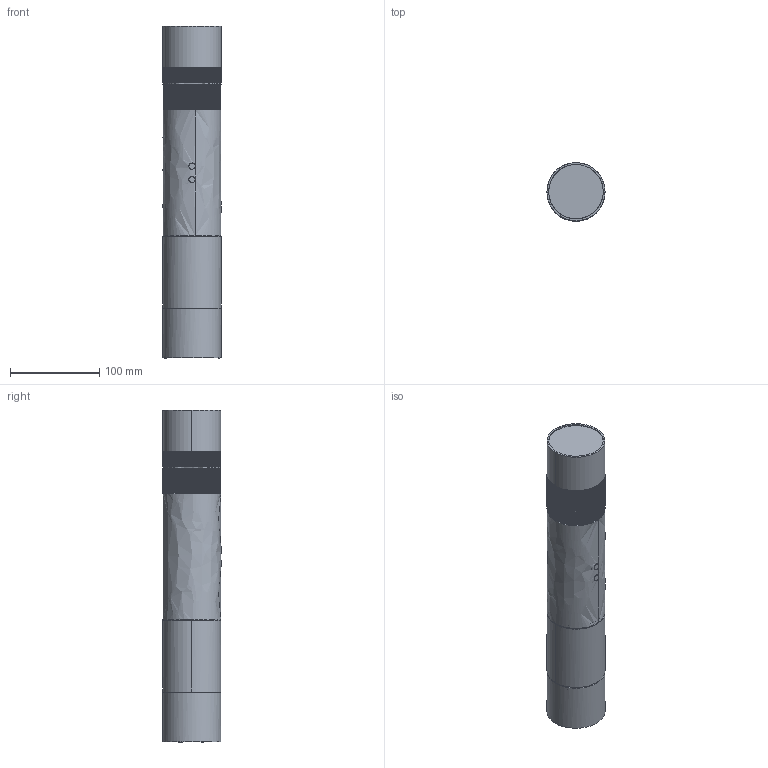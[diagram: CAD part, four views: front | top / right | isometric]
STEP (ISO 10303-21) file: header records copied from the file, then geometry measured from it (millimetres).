
FILE_DESCRIPTION(/* description */ (''),/* implementation_level */ '2;1');
FILE_NAME(/* name */ 'objective',/* time_stamp */ '2013-12-12T10:49:29+01:00',/* author */ (''),/* organization */ (''),/* preprocessor_version */ 'ST-DEVELOPER v10',/* originating_system */ '',/* authorisation */ '');
FILE_SCHEMA (('AUTOMOTIVE_DESIGN'));
Length unit declared in the file: millimetre
Products named in the file (1): 1
Bounding box: 65 x 65.3 x 372 mm (x, y, z)
Volume: 328406.2 mm3; surface area: 195770 mm2
Topology: 10 solids, 14 shells, 1753 faces, 5135 edges, 3416 vertices
Faces by surface type: bspline 982, plane 771
Entity records: 59839 total; most frequent: CARTESIAN_POINT 30072, ORIENTED_EDGE 10256, EDGE_CURVE 5132, VERTEX_POINT 3417, B_SPLINE_CURVE_WITH_KNOTS 2987, EDGE_LOOP 1776, ADVANCED_FACE 1753, FACE_OUTER_BOUND 1753
